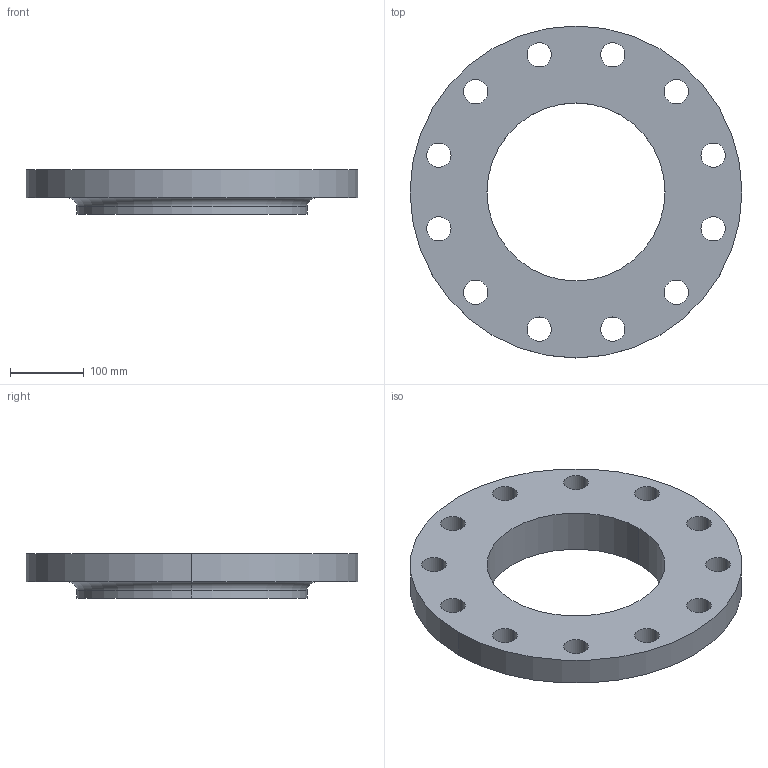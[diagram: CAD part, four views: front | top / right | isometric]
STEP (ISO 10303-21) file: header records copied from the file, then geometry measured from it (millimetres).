
FILE_DESCRIPTION (( 'STEP AP214' ), '1' );
FILE_NAME ('PN40 DN250 Type 13 - Type A Face.STEP', '2019-01-05T16:00:47', ( '' ), ( '' ), 'SwSTEP 2.0', 'SolidWorks 2019', '' );
FILE_SCHEMA (( 'AUTOMOTIVE_DESIGN' ));
Length unit declared in the file: millimetre
Products named in the file (1): PN40 DN250 Type 13 - Type A Face
Bounding box: 450 x 450 x 60 mm (x, y, z)
Volume: 4621686.1 mm3; surface area: 369135.1 mm2
Topology: 1 solids, 1 shells, 35 faces, 94 edges, 62 vertices
Faces by surface type: cylinder 30, plane 3, torus 2
Entity records: 1222 total; most frequent: DIRECTION 230, CARTESIAN_POINT 192, ORIENTED_EDGE 188, AXIS2_PLACEMENT_3D 100, EDGE_CURVE 94, CIRCLE 64, EDGE_LOOP 62, VERTEX_POINT 62
